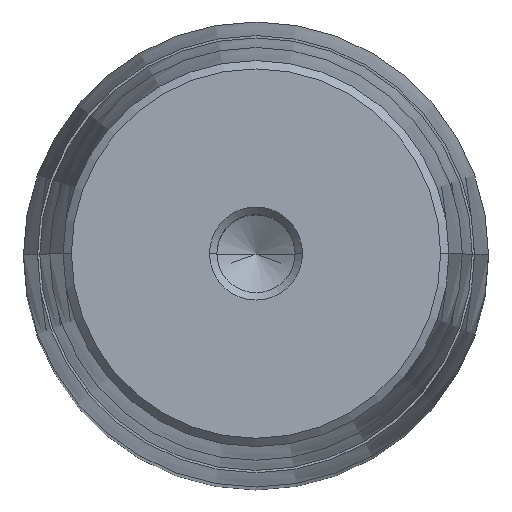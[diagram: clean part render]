
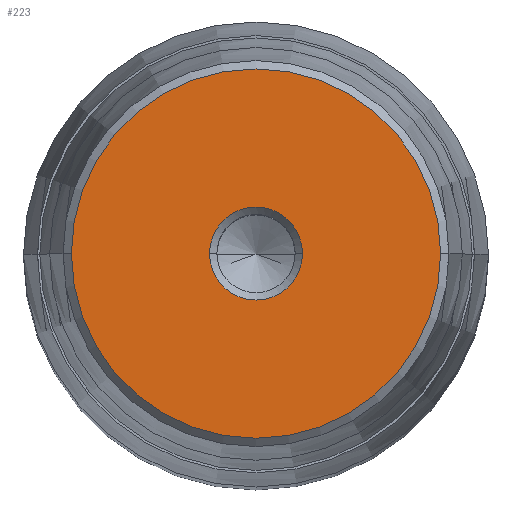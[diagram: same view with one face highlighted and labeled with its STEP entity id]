
A CAD part, top view. The second image highlights one B-rep face of the part: STEP entity #223.
In plain terms, the highlighted planar face has unit normal (0, 0, 1).
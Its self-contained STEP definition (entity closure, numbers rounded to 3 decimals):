
#148=CARTESIAN_POINT('Axis2P3D Location',(0.,0.,69.)) ;
#152=CARTESIAN_POINT('Vertex',(-6.,0.,69.)) ;
#154=CARTESIAN_POINT('Vertex',(6.,0.,69.)) ;
#191=CARTESIAN_POINT('Axis2P3D Location',(0.,6.,69.)) ;
#196=CARTESIAN_POINT('Axis2P3D Location',(0.,0.,69.)) ;
#200=CARTESIAN_POINT('Vertex',(-23.825,0.,69.)) ;
#202=CARTESIAN_POINT('Vertex',(23.825,0.,69.)) ;
#205=CARTESIAN_POINT('Axis2P3D Location',(0.,0.,69.)) ;
#214=CARTESIAN_POINT('Axis2P3D Location',(0.,0.,69.)) ;
#149=DIRECTION('Axis2P3D Direction',(0.,-0.,1.)) ;
#192=DIRECTION('Axis2P3D Direction',(0.,0.,-1.)) ;
#193=DIRECTION('Axis2P3D XDirection',(-1.,0.,0.)) ;
#197=DIRECTION('Axis2P3D Direction',(0.,0.,-1.)) ;
#206=DIRECTION('Axis2P3D Direction',(0.,0.,-1.)) ;
#215=DIRECTION('Axis2P3D Direction',(0.,0.,-1.)) ;
#150=AXIS2_PLACEMENT_3D('Circle Axis2P3D',#148,#149,$) ;
#194=AXIS2_PLACEMENT_3D('Plane Axis2P3D',#191,#192,#193) ;
#198=AXIS2_PLACEMENT_3D('Circle Axis2P3D',#196,#197,$) ;
#207=AXIS2_PLACEMENT_3D('Circle Axis2P3D',#205,#206,$) ;
#216=AXIS2_PLACEMENT_3D('Circle Axis2P3D',#214,#215,$) ;
#211=ORIENTED_EDGE('',*,*,#204,.F.) ;
#212=ORIENTED_EDGE('',*,*,#209,.F.) ;
#220=ORIENTED_EDGE('',*,*,#218,.T.) ;
#221=ORIENTED_EDGE('',*,*,#156,.T.) ;
#222=FACE_BOUND('',#219,.T.) ;
#223=ADVANCED_FACE('722-60x250x301',(#213,#222),#195,.F.) ;
#151=CIRCLE('generated circle',#150,6.) ;
#199=CIRCLE('generated circle',#198,23.825) ;
#208=CIRCLE('generated circle',#207,23.825) ;
#217=CIRCLE('generated circle',#216,6.) ;
#156=EDGE_CURVE('',#153,#155,#151,.F.) ;
#204=EDGE_CURVE('',#201,#203,#199,.T.) ;
#209=EDGE_CURVE('',#203,#201,#208,.T.) ;
#218=EDGE_CURVE('',#155,#153,#217,.T.) ;
#210=EDGE_LOOP('',(#211,#212)) ;
#219=EDGE_LOOP('',(#220,#221)) ;
#213=FACE_OUTER_BOUND('',#210,.T.) ;
#195=PLANE('Plane',#194) ;
#153=VERTEX_POINT('',#152) ;
#155=VERTEX_POINT('',#154) ;
#201=VERTEX_POINT('',#200) ;
#203=VERTEX_POINT('',#202) ;
